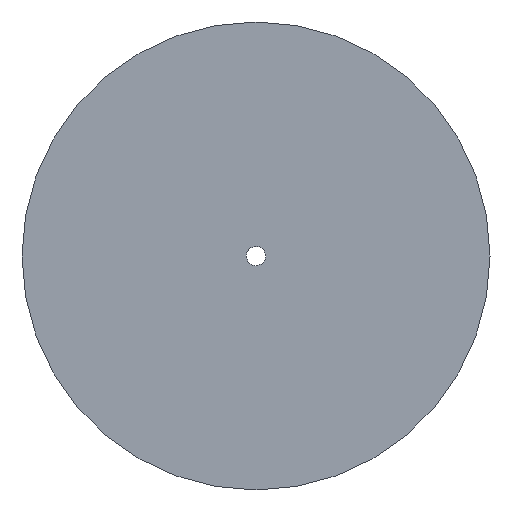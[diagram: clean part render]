
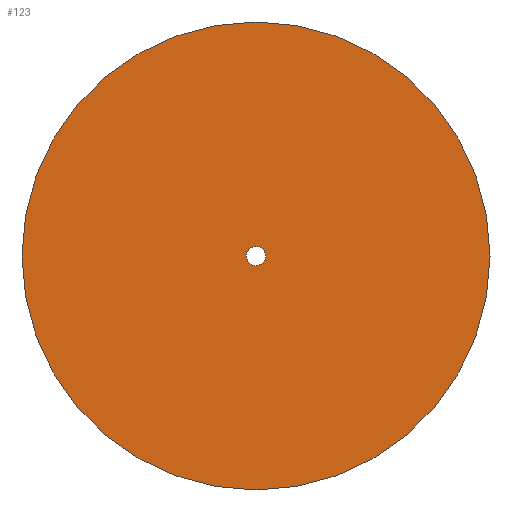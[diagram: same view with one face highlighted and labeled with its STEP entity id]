
A CAD part, top view. The second image highlights one B-rep face of the part: STEP entity #123.
In plain terms, the highlighted planar face has unit normal (0, 0, 1).
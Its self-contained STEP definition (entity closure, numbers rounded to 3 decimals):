
#62=CARTESIAN_POINT('Vertex',(-2.852,1.558,0.)) ;
#76=CARTESIAN_POINT('Vertex',(2.852,-1.558,0.)) ;
#79=CARTESIAN_POINT('Axis2P3D Location',(0.,0.,0.)) ;
#91=CARTESIAN_POINT('Axis2P3D Location',(0.,0.,0.)) ;
#96=CARTESIAN_POINT('Axis2P3D Location',(0.,0.,0.)) ;
#100=CARTESIAN_POINT('Vertex',(79.,0.,0.)) ;
#102=CARTESIAN_POINT('Vertex',(-79.,0.,0.)) ;
#105=CARTESIAN_POINT('Axis2P3D Location',(0.,0.,0.)) ;
#114=CARTESIAN_POINT('Axis2P3D Location',(0.,0.,0.)) ;
#80=DIRECTION('Axis2P3D Direction',(0.,-0.,-1.)) ;
#92=DIRECTION('Axis2P3D Direction',(0.,0.,1.)) ;
#93=DIRECTION('Axis2P3D XDirection',(1.,0.,0.)) ;
#97=DIRECTION('Axis2P3D Direction',(0.,0.,1.)) ;
#106=DIRECTION('Axis2P3D Direction',(0.,0.,1.)) ;
#115=DIRECTION('Axis2P3D Direction',(0.,0.,1.)) ;
#81=AXIS2_PLACEMENT_3D('Circle Axis2P3D',#79,#80,$) ;
#94=AXIS2_PLACEMENT_3D('Plane Axis2P3D',#91,#92,#93) ;
#98=AXIS2_PLACEMENT_3D('Circle Axis2P3D',#96,#97,$) ;
#107=AXIS2_PLACEMENT_3D('Circle Axis2P3D',#105,#106,$) ;
#116=AXIS2_PLACEMENT_3D('Circle Axis2P3D',#114,#115,$) ;
#111=ORIENTED_EDGE('',*,*,#104,.F.) ;
#112=ORIENTED_EDGE('',*,*,#109,.F.) ;
#120=ORIENTED_EDGE('',*,*,#118,.F.) ;
#121=ORIENTED_EDGE('',*,*,#83,.F.) ;
#122=FACE_BOUND('',#119,.T.) ;
#123=ADVANCED_FACE('PartBody',(#113,#122),#95,.T.) ;
#82=CIRCLE('generated circle',#81,3.25) ;
#99=CIRCLE('generated circle',#98,79.) ;
#108=CIRCLE('generated circle',#107,79.) ;
#117=CIRCLE('generated circle',#116,3.25) ;
#83=EDGE_CURVE('',#77,#63,#82,.F.) ;
#104=EDGE_CURVE('',#101,#103,#99,.F.) ;
#109=EDGE_CURVE('',#103,#101,#108,.F.) ;
#118=EDGE_CURVE('',#63,#77,#117,.T.) ;
#110=EDGE_LOOP('',(#111,#112)) ;
#119=EDGE_LOOP('',(#120,#121)) ;
#113=FACE_OUTER_BOUND('',#110,.T.) ;
#95=PLANE('',#94) ;
#63=VERTEX_POINT('',#62) ;
#77=VERTEX_POINT('',#76) ;
#101=VERTEX_POINT('',#100) ;
#103=VERTEX_POINT('',#102) ;
